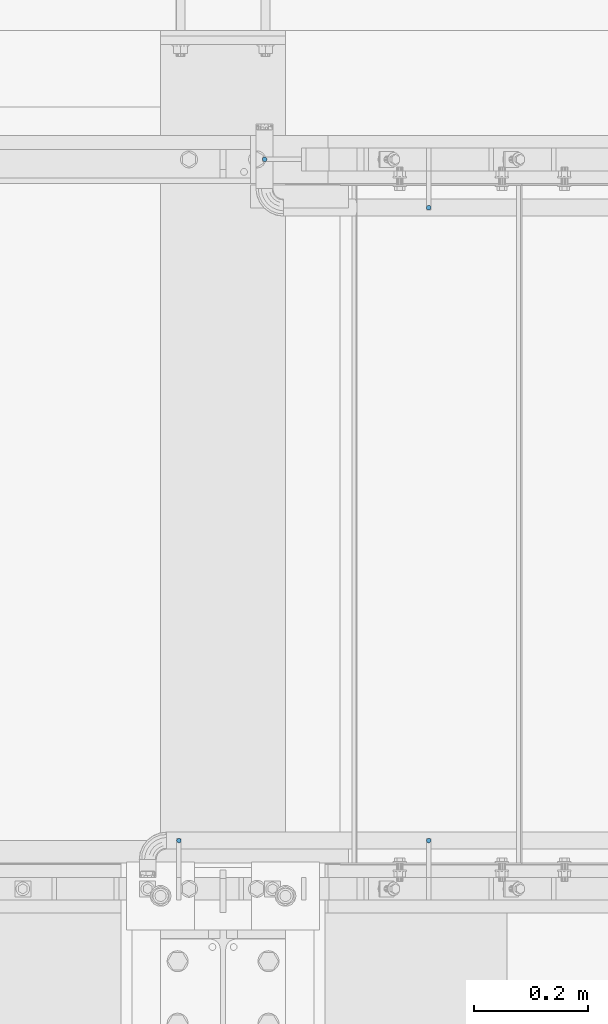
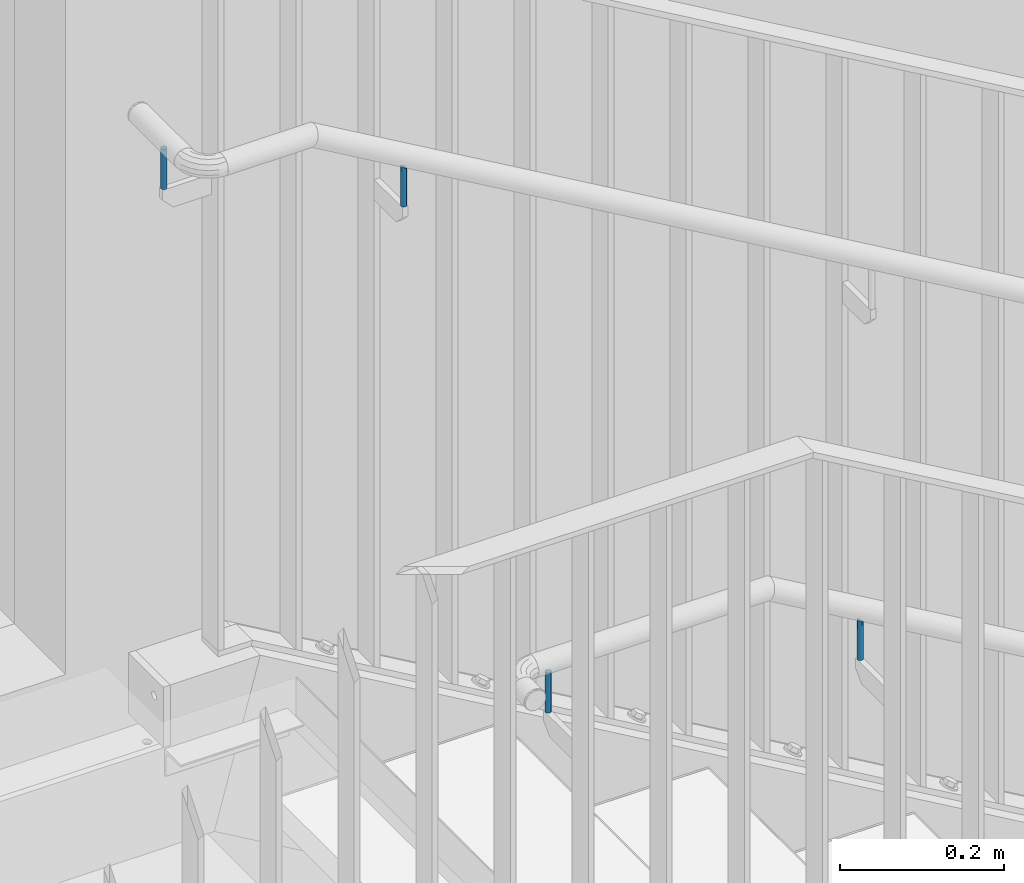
# One storey, part 6 of 145: 4 columns, 2 openings.
"""IFC2X3 building model written with IfcOpenShell, lengths in millimetres."""

from ifc_helpers import new_model, entity, si_unit, converted_unit, frame, origin, origin_with_axes, origin_2d, place, context, project, spatial, polyline, circle, outline, extrude, material, element, save


model = new_model("IFC2X3")

# Units and contexts
model_context = context("Model", 3, precision=1e-09, world=origin_with_axes())
ifc_project = project(units=[si_unit("LENGTHUNIT", "METRE", prefix="MILLI"), si_unit("AREAUNIT", "SQUARE_METRE"), si_unit("VOLUMEUNIT", "CUBIC_METRE"), converted_unit("PLANEANGLEUNIT", "DEGREE", entity("IfcPlaneAngleMeasure", 0.01745329), si_unit("PLANEANGLEUNIT", "RADIAN"), dimensions=[0, 0, 0, 0, 0, 0, 0])], contexts=[model_context])

# Site, building, storey
site_placement = place(None, origin_with_axes())
site = spatial("IfcSite", under=ifc_project, at=site_placement, Name="BZ1 Grund- und Mittelschule 85716 Unterschlei?heim", CompositionType="ELEMENT")
building_placement = place(site_placement, origin_with_axes())
building = spatial("IfcBuilding", under=site, at=building_placement, Name="Struktur 1", CompositionType="ELEMENT")
storey_placement = place(building_placement, origin_with_axes())
storey = spatial("IfcBuildingStorey", under=building, at=storey_placement, Name="Default Storey", CompositionType="ELEMENT", Elevation=0.0)

# Column, opening
ifc_material = material(Name="1.4301")
column_1_placement = place(None, frame((17433.141490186, -312.506106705, 3934.353213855), z_axis=(0.0, 0.0, -1.0), x_axis=(0.0, 1.0, 0.0)))
column_1 = element("IfcColumn", 1, at=column_1_placement, inside=storey, material=ifc_material, Name="-", ObjectType="-", context=model_context, shape_type="SweptSolid", body=[
    extrude(circle(Radius=4.0, at=origin_2d()), origin(), (0.0, 0.0, -1.0), 60.0),
])
opening_1_placement = place(column_1_placement, frame((-104.1, 0.0, -60.0), z_axis=(1.0, 0.0, 0.0), x_axis=(0.0, -1.0, 0.0)))
element("IfcOpeningElement", 2, at=opening_1_placement, cuts=column_1, ObjectType="Opening", context=model_context, shape_type="SweptSolid", body=[
    extrude(outline(polyline([(-13.305390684, -10.064322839), (15.967881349, 6.958222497), (-18.138790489, 6.958222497), (-13.305390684, -10.064322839)])), origin(), (0.0, 0.0, 1.0), 208.2),
])

column_2_placement = place(None, frame((17433.141490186, -1427.506106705, 3934.353213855), z_axis=(0.0, 0.0, 1.0), x_axis=(0.0, -1.0, 0.0)))
column_2 = element("IfcColumn", 3, at=column_2_placement, inside=storey, material=ifc_material, Name="-", ObjectType="-", context=model_context, shape_type="SweptSolid", body=[
    extrude(circle(Radius=4.0, at=origin_2d()), origin(), (0.0, 0.0, 1.0), 60.0),
])
opening_2_placement = place(column_2_placement, frame((-104.1, 13.305390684, 49.935677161), z_axis=(-1.0, 0.0, 0.0), x_axis=(0.0, -0.864466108, 0.502691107)))
element("IfcOpeningElement", 4, at=opening_2_placement, cuts=column_2, ObjectType="Opening", context=model_context, shape_type="SweptSolid", body=[
    extrude(outline(polyline([(0.0, 0.0), (33.862833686, 0.0), (4.378771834, 17.145120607), (0.0, 0.0)])), origin(), (0.0, 0.0, -1.0), 208.2),
])

# Columns
for number, where, z_axis, x_axis in (
    (5, (16993.141490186, -1427.502, 4010.0), (0.0, 0.0, -1.0), (0.0, -1.0, 0.0)),
    (6, (17144.141490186, -227.502, 4010.0), (0.0, 0.0, -1.0), (1.0, 0.0, 0.0)),
):
    element("IfcColumn", number, at=place(None, frame(where, z_axis=z_axis, x_axis=x_axis)), inside=storey, material=ifc_material, Name="-", ObjectType="-", context=model_context, shape_type="SweptSolid", body=[
        extrude(circle(Radius=4.0, at=origin_2d()), origin(), (0.0, 0.0, -1.0), 60.0),
    ])

save(model, "model.ifc")
